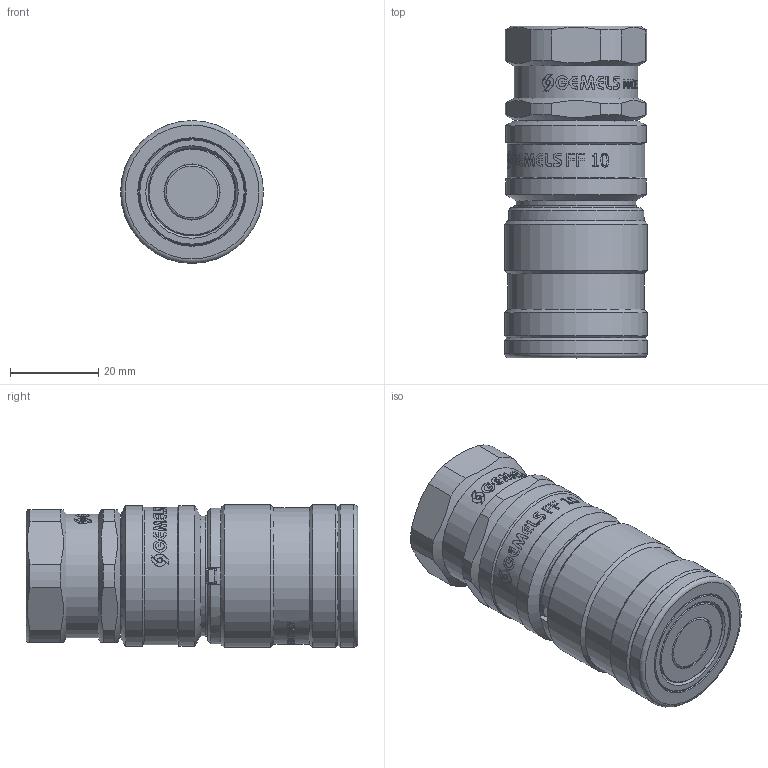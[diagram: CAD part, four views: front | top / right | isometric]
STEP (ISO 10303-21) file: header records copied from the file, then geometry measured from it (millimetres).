
FILE_DESCRIPTION(/* description */ (''),/* implementation_level */ '2;1');
FILE_NAME(/* name */ 'NC06G020000.stp',/* time_stamp */ '2026-03-18T09:36:45+01:00',/* author */ ('nicholas.facchinetti'),/* organization */ (''),/* preprocessor_version */ 'ST-DEVELOPER v20',/* originating_system */ 'Autodesk Inventor 2024',/* authorisation */ '');
FILE_SCHEMA (('CONFIG_CONTROL_DESIGN'));
Products named in the file (1): Parte2
Bounding box: 32.3 x 75.04 x 32.3 mm (x, y, z)
Volume: 51801.3 mm3; surface area: 17800.7 mm2
Topology: 1 solids, 5 shells, 1680 faces, 4773 edges, 3175 vertices
Faces by surface type: bspline 1076, plane 421, cylinder 130, cone 27, torus 14, sphere 12
Full cylindrical faces by diameter (mm): 6.9 x1, 12.55 x2, 12.7 x1, 14.95 x1, 15.5 x1, 19.8 x1, 19.9 x1, 24 x1, 24.15 x1, 24.254 x4, 24.3 x1, 24.376 x1, 26 x1, 26.3 x1, 26.8 x1, 27 x2, 27.3 x1, 27.5 x1, 28 x1, 30.8 x1, 31.1 x1, 31.8 x2, 32.3 x3
Entity records: 73682 total; most frequent: CARTESIAN_POINT 35443, ORIENTED_EDGE 9522, EDGE_CURVE 4761, DIRECTION 4286, VERTEX_POINT 3174, B_SPLINE_CURVE_WITH_KNOTS 2278, LINE 1830, VECTOR 1830
